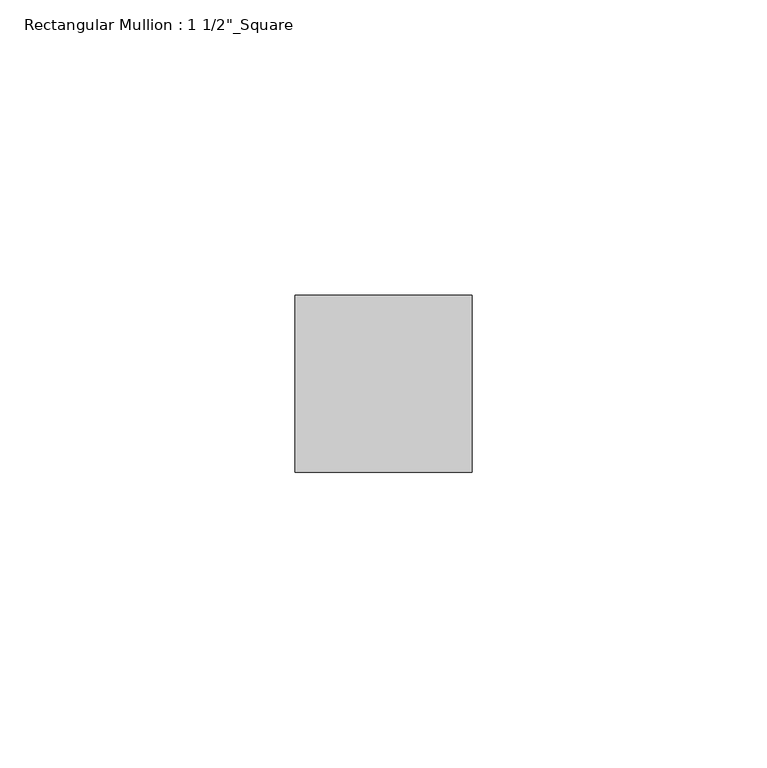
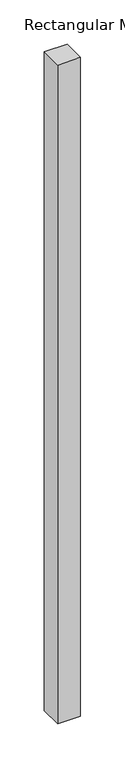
"""IFC4 building model written with IfcOpenShell, lengths in millimetres: member geometry."""

from ifc_helpers import new_model, si_unit, frame, origin, place, context, project, spatial, polyline, outline, extrude, source, transform, mapped, element, save


def member_a887ce48(model_context):
    return source(origin(), model_context, "Body", "SweptSolid", [
        extrude(outline(polyline([(0.0, 27.5), (0.0, -2.5), (-30.0, -2.5), (-30.0, 27.5), (0.0, 27.5)])), frame((0.0, 0.0, -909.0400002), z_axis=(0.0, 0.0, 1.0), x_axis=(1.0, 0.0, 0.0)), (0.0, 0.0, 1.0), 909.0400002),
    ])


if __name__ == "__main__":
    model = new_model("IFC4")
    model_context = context("Model", 3, world=origin())
    ifc_project = project(units=[si_unit("LENGTHUNIT", "METRE", prefix="MILLI")], contexts=[model_context])
    site = spatial("IfcSite", under=ifc_project)
    building = spatial("IfcBuilding", under=site)
    placement = place(None, origin())
    member_shape = member_a887ce48(model_context)
    element("IfcMember", 1, ObjectType="Rectangular Mullion : 1 1/2\"_Square", at=placement, inside=building, context=model_context, shape_type="MappedRepresentation", body=[
        mapped(member_shape, transform((0.0, 0.0, 0.0), x_axis=(1.0, 0.0, 0.0), y_axis=(0.0, 1.0, 0.0), z_axis=(0.0, 0.0, 1.0))),
    ])
    save(model, "model.ifc")
